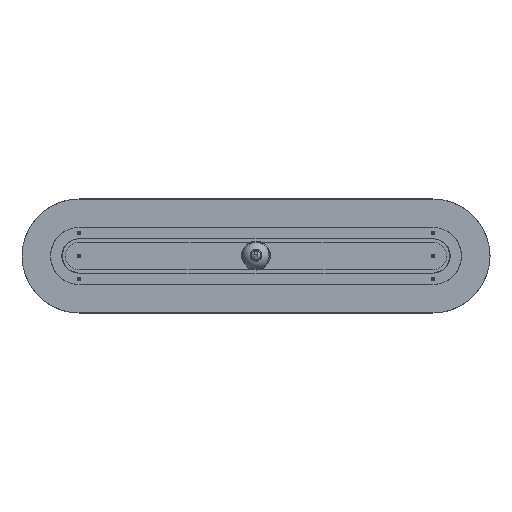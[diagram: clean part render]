
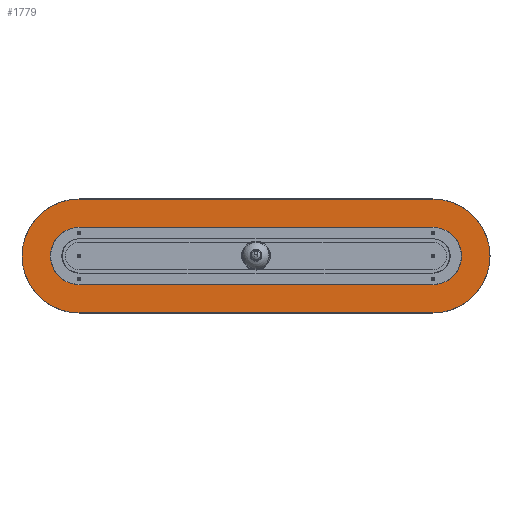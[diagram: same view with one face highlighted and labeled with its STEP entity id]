
A CAD part, top view. The second image highlights one B-rep face of the part: STEP entity #1779.
In plain terms, the highlighted planar face has unit normal (0, 0, 1).
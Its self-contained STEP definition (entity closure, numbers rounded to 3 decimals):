
#1684=CARTESIAN_POINT('',(14543.098,-2000.93,20.));
#1685=DIRECTION('',(0.,0.,1.));
#1686=DIRECTION('',(-1.,0.,0.));
#1687=AXIS2_PLACEMENT_3D('',#1684,#1685,#1686);
#1688=PLANE('',#1687);
#1689=CARTESIAN_POINT('',(13548.034,-3721.267,20.));
#1690=VERTEX_POINT('',#1689);
#1691=CARTESIAN_POINT('',(13238.034,-3721.267,20.));
#1692=VERTEX_POINT('',#1691);
#1693=CARTESIAN_POINT('',(13548.034,-3721.267,20.));
#1694=DIRECTION('',(-1.,-0.,0.));
#1695=VECTOR('',#1694,310.);
#1696=LINE('',#1693,#1695);
#1697=EDGE_CURVE('',#1690,#1692,#1696,.T.);
#1698=ORIENTED_EDGE('',*,*,#1697,.T.);
#1699=CARTESIAN_POINT('',(13238.034,-3671.067,20.));
#1700=VERTEX_POINT('',#1699);
#1701=CARTESIAN_POINT('',(13238.034,-3696.167,20.));
#1702=DIRECTION('',(-0.,-0.,-1.));
#1703=DIRECTION('',(1.,0.,-0.));
#1704=AXIS2_PLACEMENT_3D('',#1701,#1702,#1703);
#1705=CIRCLE('',#1704,25.1);
#1706=EDGE_CURVE('',#1692,#1700,#1705,.T.);
#1707=ORIENTED_EDGE('',*,*,#1706,.T.);
#1708=CARTESIAN_POINT('',(13548.034,-3671.067,20.));
#1709=VERTEX_POINT('',#1708);
#1710=CARTESIAN_POINT('',(13238.034,-3671.067,20.));
#1711=DIRECTION('',(1.,0.,-0.));
#1712=VECTOR('',#1711,310.);
#1713=LINE('',#1710,#1712);
#1714=EDGE_CURVE('',#1700,#1709,#1713,.T.);
#1715=ORIENTED_EDGE('',*,*,#1714,.T.);
#1716=CARTESIAN_POINT('',(13573.134,-3696.167,20.));
#1717=VERTEX_POINT('',#1716);
#1718=CARTESIAN_POINT('',(13548.034,-3696.167,20.));
#1719=DIRECTION('',(-0.,-0.,-1.));
#1720=DIRECTION('',(1.,0.,-0.));
#1721=AXIS2_PLACEMENT_3D('',#1718,#1719,#1720);
#1722=CIRCLE('',#1721,25.1);
#1723=EDGE_CURVE('',#1709,#1717,#1722,.T.);
#1724=ORIENTED_EDGE('',*,*,#1723,.T.);
#1725=CARTESIAN_POINT('',(13548.034,-3696.167,20.));
#1726=DIRECTION('',(-0.,-0.,-1.));
#1727=DIRECTION('',(1.,0.,-0.));
#1728=AXIS2_PLACEMENT_3D('',#1725,#1726,#1727);
#1729=CIRCLE('',#1728,25.1);
#1730=EDGE_CURVE('',#1717,#1690,#1729,.T.);
#1731=ORIENTED_EDGE('',*,*,#1730,.T.);
#1732=EDGE_LOOP('',(#1698,#1707,#1715,#1724,#1731));
#1733=FACE_BOUND('',#1732,.T.);
#1734=CARTESIAN_POINT('',(13238.034,-3646.267,20.));
#1735=VERTEX_POINT('',#1734);
#1736=CARTESIAN_POINT('',(13188.134,-3696.167,20.));
#1737=VERTEX_POINT('',#1736);
#1738=CARTESIAN_POINT('',(13238.034,-3696.167,20.));
#1739=DIRECTION('',(0.,0.,1.));
#1740=DIRECTION('',(1.,0.,-0.));
#1741=AXIS2_PLACEMENT_3D('',#1738,#1739,#1740);
#1742=CIRCLE('',#1741,49.9);
#1743=EDGE_CURVE('',#1735,#1737,#1742,.T.);
#1744=ORIENTED_EDGE('',*,*,#1743,.T.);
#1745=CARTESIAN_POINT('',(13238.034,-3746.067,20.));
#1746=VERTEX_POINT('',#1745);
#1747=CARTESIAN_POINT('',(13238.034,-3696.167,20.));
#1748=DIRECTION('',(0.,0.,1.));
#1749=DIRECTION('',(1.,0.,-0.));
#1750=AXIS2_PLACEMENT_3D('',#1747,#1748,#1749);
#1751=CIRCLE('',#1750,49.9);
#1752=EDGE_CURVE('',#1737,#1746,#1751,.T.);
#1753=ORIENTED_EDGE('',*,*,#1752,.T.);
#1754=CARTESIAN_POINT('',(13548.034,-3746.067,20.));
#1755=VERTEX_POINT('',#1754);
#1756=CARTESIAN_POINT('',(13238.034,-3746.067,20.));
#1757=DIRECTION('',(1.,0.,-0.));
#1758=VECTOR('',#1757,310.);
#1759=LINE('',#1756,#1758);
#1760=EDGE_CURVE('',#1746,#1755,#1759,.T.);
#1761=ORIENTED_EDGE('',*,*,#1760,.T.);
#1762=CARTESIAN_POINT('',(13548.034,-3646.267,20.));
#1763=VERTEX_POINT('',#1762);
#1764=CARTESIAN_POINT('',(13548.034,-3696.167,20.));
#1765=DIRECTION('',(0.,0.,1.));
#1766=DIRECTION('',(1.,0.,-0.));
#1767=AXIS2_PLACEMENT_3D('',#1764,#1765,#1766);
#1768=CIRCLE('',#1767,49.9);
#1769=EDGE_CURVE('',#1755,#1763,#1768,.T.);
#1770=ORIENTED_EDGE('',*,*,#1769,.T.);
#1771=CARTESIAN_POINT('',(13548.034,-3646.267,20.));
#1772=DIRECTION('',(-1.,0.,0.));
#1773=VECTOR('',#1772,310.);
#1774=LINE('',#1771,#1773);
#1775=EDGE_CURVE('',#1763,#1735,#1774,.T.);
#1776=ORIENTED_EDGE('',*,*,#1775,.T.);
#1777=EDGE_LOOP('',(#1744,#1753,#1761,#1770,#1776));
#1778=FACE_BOUND('',#1777,.T.);
#1779=ADVANCED_FACE('',(#1733,#1778),#1688,.T.);
